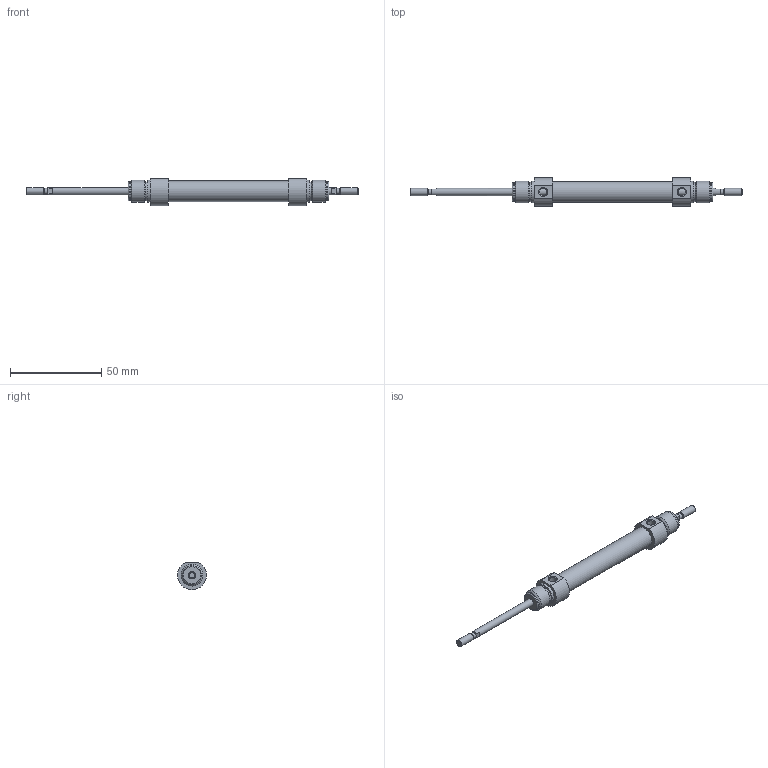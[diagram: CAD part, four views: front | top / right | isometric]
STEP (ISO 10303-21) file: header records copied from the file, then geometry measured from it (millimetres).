
FILE_DESCRIPTION( ( 'STEP AP203' ), '1' );
FILE_NAME( '//expscmdclustefs.cadenas.external/client_exchange/iodir/jobs/output/wkb68273017_no0/STEP/M101-010-0040--__0__2_03.stp', ' ', ( ' ' ), ( ' ' ), 'PSStep 15.0.47', 'PARTsolutions', ' ' );
FILE_SCHEMA( ( 'CONFIG_CONTROL_DESIGN' ) );
Length unit declared in the file: millimetre
Products named in the file (3): M101-010-0040-- [0]; HI_M101-010-0040---[0]-z; HI_M101-010-0040---[0]-k
Assembly tree (2 placements, depth 2):
  M101-010-0040-- [0]
    HI_M101-010-0040---[0]-z
    HI_M101-010-0040---[0]-k
Bounding box: 182 x 15.77 x 14.87 mm (x, y, z)
Volume: 11083.9 mm3; surface area: 9718.1 mm2
Topology: 2 solids, 2 shells, 71 faces, 145 edges, 88 vertices
Faces by surface type: plane 32, cylinder 23, cone 14, torus 2
Full cylindrical faces by diameter (mm): 3.141 x2, 4 x6, 4.134 x2, 10 x2, 10.466 x4, 11.3 x1, 12 x4
Entity records: 1838 total; most frequent: CARTESIAN_POINT 358, DIRECTION 312, ORIENTED_EDGE 212, AXIS2_PLACEMENT_3D 140, EDGE_LOOP 120, EDGE_CURVE 106, FACE_OUTER_BOUND 94, VERTEX_POINT 82
